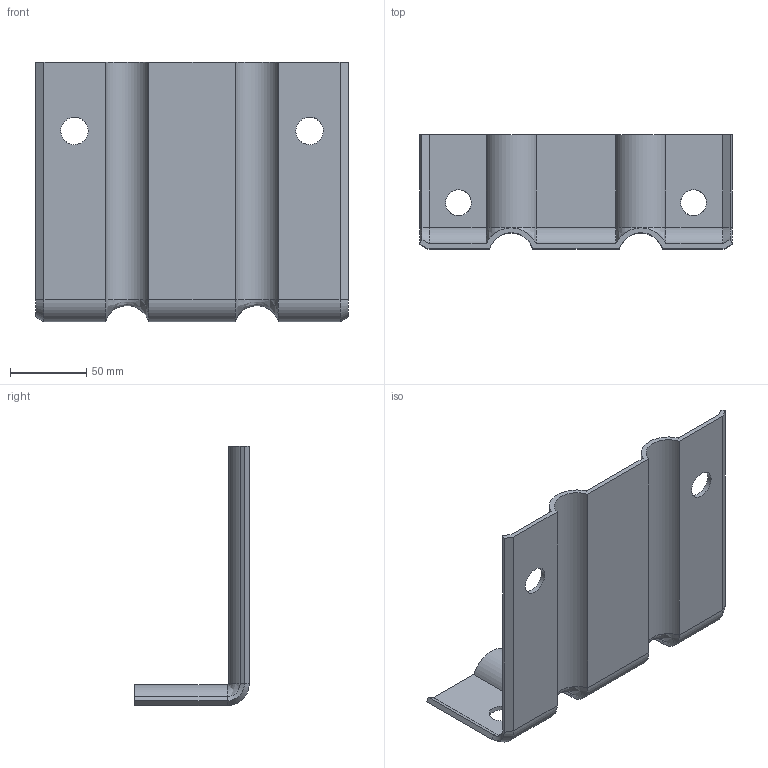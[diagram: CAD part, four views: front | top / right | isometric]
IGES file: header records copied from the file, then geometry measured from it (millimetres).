
Global section: file name: SC250; native system: Autodesk RealDWG; preprocessor: Autodesk Translation Framework DWG producer (atf_dwg_producer); organization: unknown; date: 20241104.101420; units: millimetre
Bounding box: 205 x 75 x 170 mm (x, y, z)
Volume: 162618.6 mm3; surface area: 105302 mm2
Topology: 1 solids, 1 shells, 54 faces, 124 edges, 72 vertices
Faces by surface type: bspline 54
